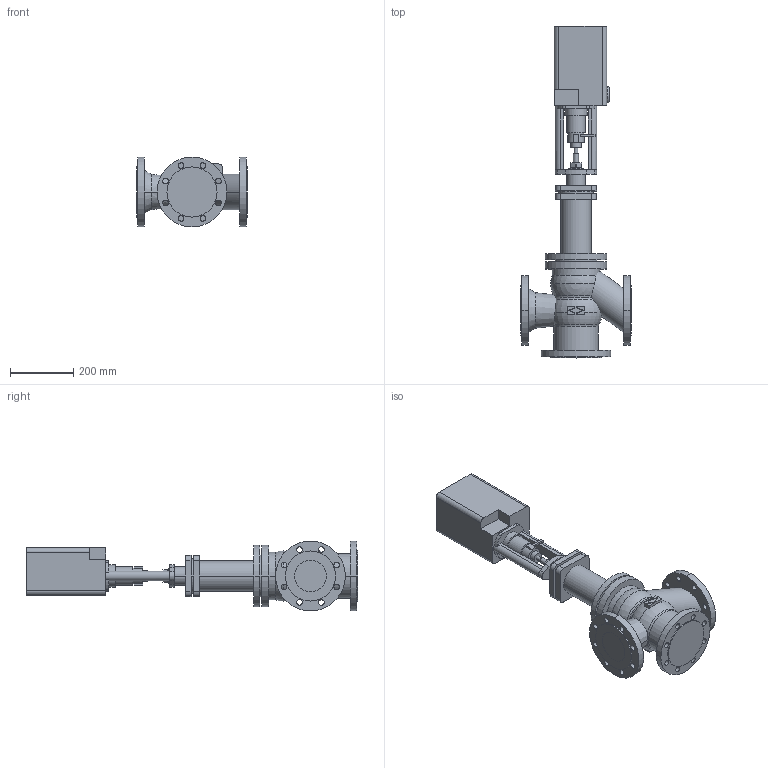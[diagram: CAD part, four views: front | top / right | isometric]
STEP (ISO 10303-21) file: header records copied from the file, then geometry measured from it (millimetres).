
FILE_DESCRIPTION(('OneSpaceDesigner STEP Export'),'2;1');
FILE_NAME('c000000422.stp','2006-09-21T11:37:29',(''),(''),'OneSpace Designer STEP processor for AP214 (Solid Model)','OneSpace Designer 13.20A 18-Aug-2005 (C) CoCreate Software GmbH','');
FILE_SCHEMA(('AUTOMOTIVE_DESIGN { 1 0 10303 214 1 1 1 1 }'));
Length unit declared in the file: millimetre
Products named in the file (2): 1; 2
Bounding box: 350 x 1047.7 x 220 mm (x, y, z)
Volume: 19001596.7 mm3; surface area: 924099.9 mm2
Topology: 2 solids, 2 shells, 258 faces, 668 edges, 440 vertices
Faces by surface type: cylinder 132, plane 106, torus 12, sphere 4, cone 4
Entity records: 7367 total; most frequent: CARTESIAN_POINT 1413, ORIENTED_EDGE 1328, DIRECTION 1103, EDGE_CURVE 664, VERTEX_POINT 440, AXIS2_PLACEMENT_3D 392, EDGE_LOOP 336, VECTOR 319
